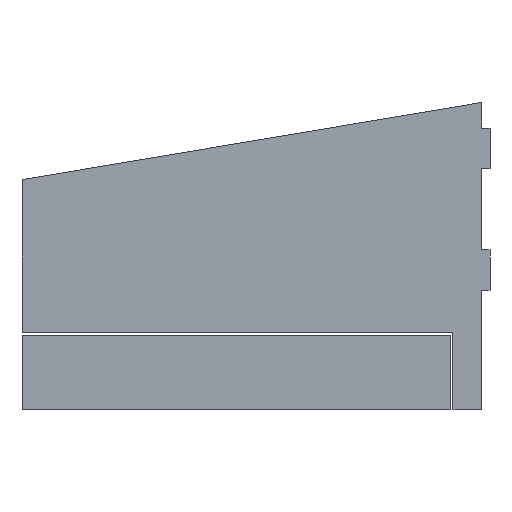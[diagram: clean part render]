
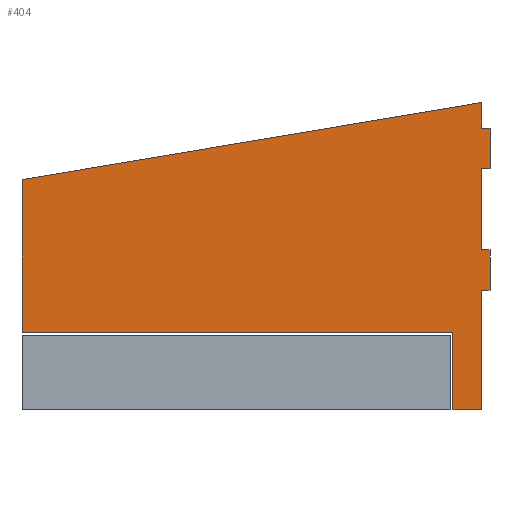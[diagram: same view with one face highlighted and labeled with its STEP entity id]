
A CAD part, left-side view. The second image highlights one B-rep face of the part: STEP entity #404.
In plain terms, the highlighted planar face has unit normal (-1, 0, 0).
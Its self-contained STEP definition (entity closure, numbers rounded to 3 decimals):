
#32=FACE_OUTER_BOUND('',#54,.T.);
#54=EDGE_LOOP('',(#319,#320,#321,#322,#323,#324,#325,#326,#327,#328,#329,
#330,#331,#332));
#73=LINE('',#578,#127);
#77=LINE('',#586,#131);
#80=LINE('',#593,#134);
#84=LINE('',#601,#138);
#87=LINE('',#607,#141);
#90=LINE('',#614,#144);
#94=LINE('',#622,#148);
#97=LINE('',#627,#151);
#99=LINE('',#630,#153);
#101=LINE('',#634,#155);
#102=LINE('',#636,#156);
#103=LINE('',#638,#157);
#104=LINE('',#640,#158);
#105=LINE('',#641,#159);
#127=VECTOR('',#476,10.);
#131=VECTOR('',#482,10.);
#134=VECTOR('',#487,10.);
#138=VECTOR('',#493,10.);
#141=VECTOR('',#498,10.);
#144=VECTOR('',#503,10.);
#148=VECTOR('',#509,10.);
#151=VECTOR('',#514,10.);
#153=VECTOR('',#518,10.);
#155=VECTOR('',#522,10.);
#156=VECTOR('',#523,10.);
#157=VECTOR('',#524,10.);
#158=VECTOR('',#525,10.);
#159=VECTOR('',#526,10.);
#177=VERTEX_POINT('',#576);
#178=VERTEX_POINT('',#577);
#181=VERTEX_POINT('',#585);
#183=VERTEX_POINT('',#591);
#184=VERTEX_POINT('',#592);
#187=VERTEX_POINT('',#600);
#189=VERTEX_POINT('',#606);
#191=VERTEX_POINT('',#612);
#192=VERTEX_POINT('',#613);
#195=VERTEX_POINT('',#621);
#197=VERTEX_POINT('',#633);
#198=VERTEX_POINT('',#635);
#199=VERTEX_POINT('',#637);
#200=VERTEX_POINT('',#639);
#217=EDGE_CURVE('',#177,#178,#73,.T.);
#221=EDGE_CURVE('',#178,#181,#77,.T.);
#224=EDGE_CURVE('',#183,#184,#80,.T.);
#228=EDGE_CURVE('',#184,#187,#84,.T.);
#231=EDGE_CURVE('',#187,#189,#87,.T.);
#234=EDGE_CURVE('',#191,#192,#90,.T.);
#238=EDGE_CURVE('',#192,#195,#94,.T.);
#241=EDGE_CURVE('',#183,#195,#97,.T.);
#243=EDGE_CURVE('',#177,#189,#99,.T.);
#245=EDGE_CURVE('',#197,#181,#101,.T.);
#246=EDGE_CURVE('',#198,#197,#102,.T.);
#247=EDGE_CURVE('',#198,#199,#103,.T.);
#248=EDGE_CURVE('',#199,#200,#104,.T.);
#249=EDGE_CURVE('',#200,#191,#105,.T.);
#319=ORIENTED_EDGE('',*,*,#217,.T.);
#320=ORIENTED_EDGE('',*,*,#221,.T.);
#321=ORIENTED_EDGE('',*,*,#245,.F.);
#322=ORIENTED_EDGE('',*,*,#246,.F.);
#323=ORIENTED_EDGE('',*,*,#247,.T.);
#324=ORIENTED_EDGE('',*,*,#248,.T.);
#325=ORIENTED_EDGE('',*,*,#249,.T.);
#326=ORIENTED_EDGE('',*,*,#234,.T.);
#327=ORIENTED_EDGE('',*,*,#238,.T.);
#328=ORIENTED_EDGE('',*,*,#241,.F.);
#329=ORIENTED_EDGE('',*,*,#224,.T.);
#330=ORIENTED_EDGE('',*,*,#228,.T.);
#331=ORIENTED_EDGE('',*,*,#231,.T.);
#332=ORIENTED_EDGE('',*,*,#243,.F.);
#382=PLANE('',#441);
#404=ADVANCED_FACE('',(#32),#382,.F.);
#441=AXIS2_PLACEMENT_3D('',#632,#520,#521);
#476=DIRECTION('',(0.,1.,0.));
#482=DIRECTION('',(0.,0.,1.));
#487=DIRECTION('',(0.,1.,0.));
#493=DIRECTION('',(0.,0.,1.));
#498=DIRECTION('',(0.,-1.,0.));
#503=DIRECTION('',(0.,0.,1.));
#509=DIRECTION('',(0.,-1.,0.));
#514=DIRECTION('',(0.,0.,-1.));
#518=DIRECTION('',(0.,0.,-1.));
#520=DIRECTION('center_axis',(1.,0.,0.));
#521=DIRECTION('ref_axis',(0.,0.,-1.));
#522=DIRECTION('',(0.,-0.986,0.165));
#523=DIRECTION('',(0.,0.,1.));
#524=DIRECTION('',(0.,-1.,0.));
#525=DIRECTION('',(0.,0.,-1.));
#526=DIRECTION('',(0.,-1.,0.));
#576=CARTESIAN_POINT('',(0.,0.,-10.));
#577=CARTESIAN_POINT('',(0.,3.,-10.));
#578=CARTESIAN_POINT('',(0.,44.75,-10.));
#585=CARTESIAN_POINT('',(0.,3.,-0.503));
#586=CARTESIAN_POINT('',(0.,3.,-28.751));
#591=CARTESIAN_POINT('',(0.,0.,-55.));
#592=CARTESIAN_POINT('',(0.,3.,-55.));
#593=CARTESIAN_POINT('',(0.,44.75,-55.));
#600=CARTESIAN_POINT('',(0.,3.,-25.));
#601=CARTESIAN_POINT('',(0.,3.,-41.));
#606=CARTESIAN_POINT('',(0.,0.,-25.));
#607=CARTESIAN_POINT('',(0.,43.25,-25.));
#612=CARTESIAN_POINT('',(0.,3.,-114.));
#613=CARTESIAN_POINT('',(0.,3.,-70.));
#614=CARTESIAN_POINT('',(0.,3.,-63.5));
#621=CARTESIAN_POINT('',(0.,0.,-70.));
#622=CARTESIAN_POINT('',(0.,43.25,-70.));
#627=CARTESIAN_POINT('',(0.,0.,0.));
#630=CARTESIAN_POINT('',(0.,0.,0.));
#632=CARTESIAN_POINT('Origin',(0.,86.5,-57.));
#633=CARTESIAN_POINT('',(0.,173.,-29.));
#634=CARTESIAN_POINT('',(0.,173.,-29.));
#635=CARTESIAN_POINT('',(0.,173.,-85.5));
#636=CARTESIAN_POINT('',(0.,173.,-114.));
#637=CARTESIAN_POINT('',(0.,13.7,-85.5));
#638=CARTESIAN_POINT('',(0.,50.1,-85.5));
#639=CARTESIAN_POINT('',(0.,13.7,-114.));
#640=CARTESIAN_POINT('',(0.,13.7,-85.5));
#641=CARTESIAN_POINT('',(0.,173.,-114.));
